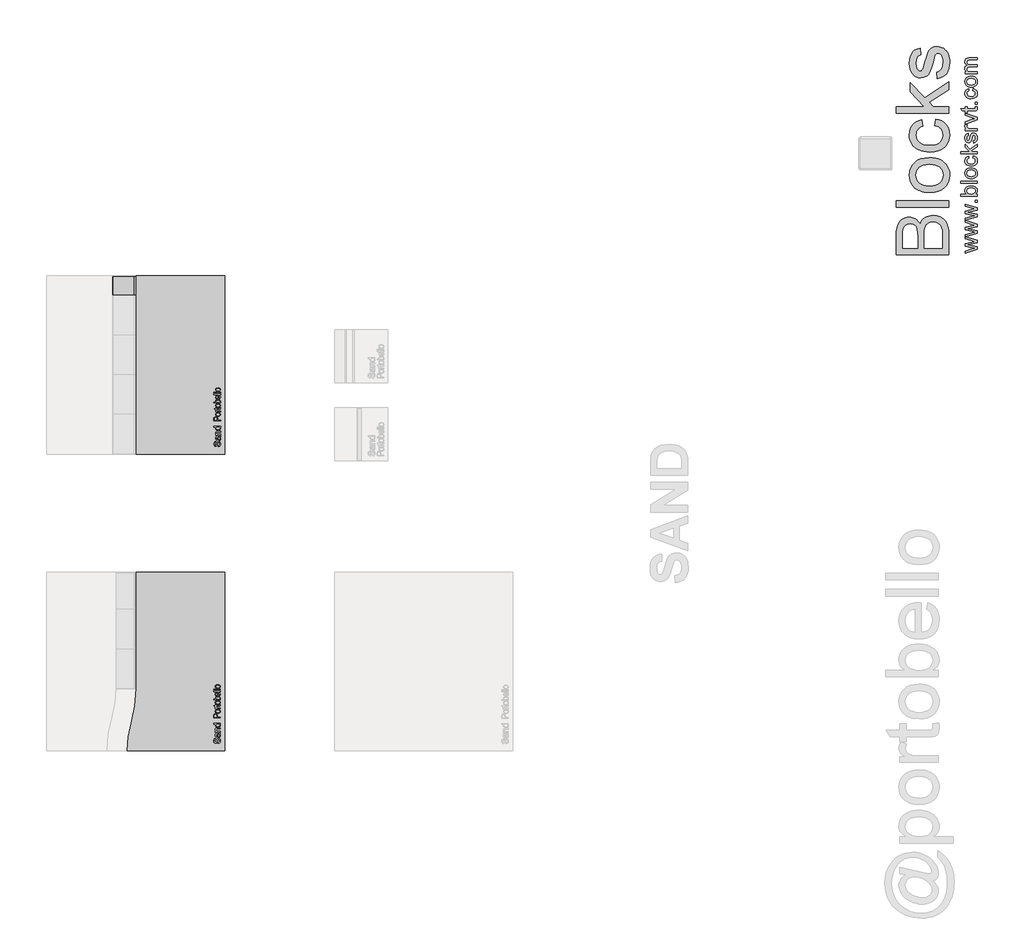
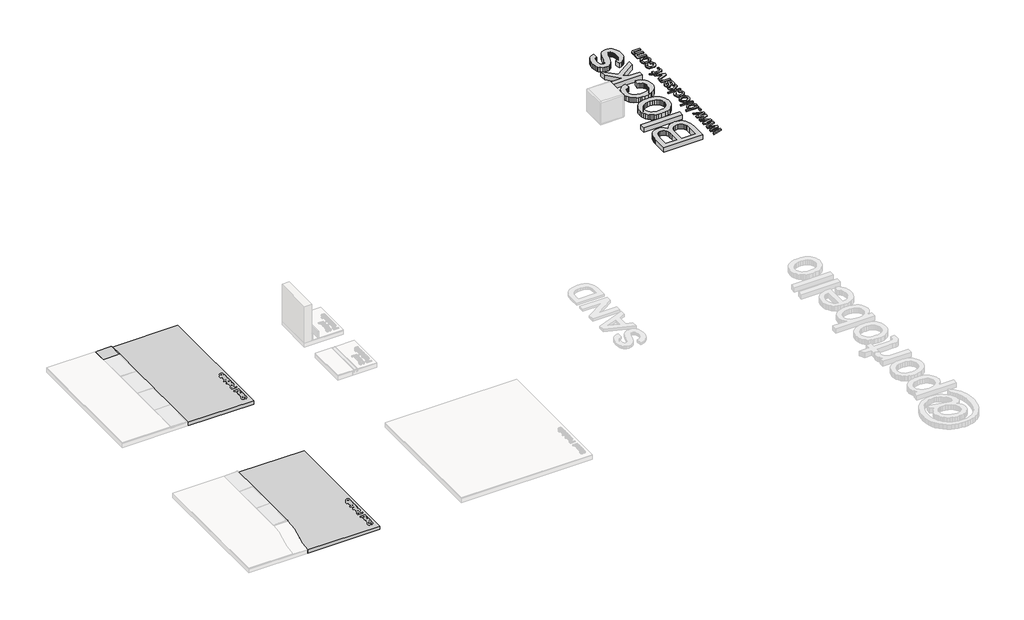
# One storey, part 6 of 6: 5 proxies.
"""IFC4 building model written with IfcOpenShell, lengths in millimetres."""

from ifc_helpers import new_model, si_unit, origin, origin_with_axes, place, context, project, spatial, polyline, outline, extrude, transform, mapped, element, save
from components import generic_models_525e2e9f, generic_models_5d5f10d4, sand_00d39136

model = new_model("IFC4")

# Units and contexts
model_context = context("Model", 3, world=origin())
ifc_project = project(units=[si_unit("LENGTHUNIT", "METRE", prefix="MILLI")], contexts=[model_context])

# Site, building, storey
site = spatial("IfcSite", under=ifc_project)
building = spatial("IfcBuilding", under=site)
storey = spatial("IfcBuildingStorey", under=building, Name="PORTOBELLO - SHOWROOM", Elevation=0.0)

# Proxies
placement = place(None, origin())
generic_models_shape = generic_models_525e2e9f(model_context)
element("IfcBuildingElementProxy", 1, Name="Água1 : Água", ObjectType="Água1 : Água", at=placement, inside=storey, context=model_context, shape_type="MappedRepresentation", body=[
    mapped(generic_models_shape, transform((-2016.0, 1090.0, 0.0), x_axis=(1.0, 0.0, 0.0), y_axis=(0.0, 1.0, 0.0), z_axis=(0.0, 0.0, 1.0))),
])
generic_models_2_shape = generic_models_5d5f10d4(model_context)
element("IfcBuildingElementProxy", 2, Name="Água2 : Água", ObjectType="Água2 : Água", at=placement, inside=storey, context=model_context, shape_type="MappedRepresentation", body=[
    mapped(generic_models_2_shape, transform((-2016.0, 1090.0, 0.0), x_axis=(1.0, 0.0, 0.0), y_axis=(0.0, 1.0, 0.0), z_axis=(0.0, 0.0, 1.0))),
])
element("IfcBuildingElementProxy", 3, Name="25mm Arial", ObjectType="25mm Arial", at=placement, inside=storey, context=model_context, shape_type="SweptSolid", body=[
    extrude(outline(polyline([(1688.9669276, 1102.3766874), (1510.9469451, 1047.9882686), (1688.9669276, 993.4223032), (1688.9669276, 955.5304577), (1580.809621, 931.3728733), (1547.0871048, 924.3831154), (1688.9669276, 893.2970868), (1688.9669276, 855.1599867), (1510.9469451, 800.7715678), (1688.9669276, 746.2056024), (1688.9669276, 708.3137569), (1580.809621, 684.1561726), (1547.0871048, 677.1664147), (1688.9669276, 646.0803861), (1688.9669276, 607.9432859), (1504.5354207, 551.596027), (1504.5354207, 584.1535836), (1612.1409042, 616.0366898), (1650.5845727, 625.540308), (1613.5511186, 633.3271436), (1504.5354207, 658.6496876), (1504.5354207, 695.9283964), (1613.2445502, 721.2509404), (1646.7831255, 728.1793847), (1611.4051403, 738.1121985), (1504.5354207, 769.9953048), (1504.5354207, 798.8127277), (1504.5354207, 802.7368024), (1504.5354207, 831.3702843), (1612.1409042, 863.2533906), (1650.5845727, 872.7570088), (1613.5511186, 880.5438443), (1504.5354207, 905.8663883), (1504.5354207, 943.1450972), (1613.2445502, 968.4676412), (1646.7831255, 975.3960854), (1611.4051403, 985.3288993), (1504.5354207, 1017.2120056), (1504.5354207, 1046.0294285), (1504.5354207, 1049.9535031), (1504.5354207, 1078.5869851), (1612.1409042, 1110.4700913), (1650.5845727, 1119.9737095), (1613.5511186, 1127.7605451), (1504.5354207, 1153.0830891), (1504.5354207, 1190.3617979), (1613.2445502, 1215.6843419), (1646.7831255, 1222.6127862), (1611.4051403, 1232.5456001), (1504.5354207, 1264.4287063), (1504.5354207, 1297.1702039), (1688.9669276, 1240.639004), (1688.9669276, 1202.7471585), (1580.809621, 1178.5895741), (1547.0871048, 1171.5998162), (1688.9669276, 1140.5137876), (1688.9669276, 1102.3766874)])), origin_with_axes(), (0.0, 0.0, 1.0), 20.0),
    extrude(outline(polyline([(1688.9669276, 1326.6007635), (1657.5743307, 1326.6007635), (1657.5743307, 1357.9933604), (1688.9669276, 1357.9933604), (1688.9669276, 1326.6007635)])), origin_with_axes(), (0.0, 0.0, 1.0), 20.0),
    extrude(outline(polyline([(1688.9669276, 1448.2470766), (1688.9669276, 1416.8544796), (1437.8261522, 1416.8544796), (1437.8261522, 1448.2470766), (1530.9616106, 1448.2470766), (1517.6833699, 1458.5707651), (1508.1989122, 1470.2280258), (1502.5082376, 1483.2188587), (1500.611346, 1497.5432639), (1502.3204645, 1513.7147433), (1507.4478198, 1528.9971745), (1515.6715152, 1542.5168378), (1526.669654, 1553.4000135), (1556.5600661, 1568.3912048), (1593.9920592, 1573.8174643), (1635.8999498, 1568.1995996), (1652.8301858, 1561.1772688), (1667.0779489, 1551.3460057), (1678.3711597, 1539.5450411), (1686.4377389, 1526.6136057), (1691.2776864, 1512.5516997), (1692.8910022, 1497.3593229), (1690.8101697, 1482.5635689), (1684.567672, 1469.4462765), (1674.1635094, 1458.0074458), (1659.5976816, 1448.2470766), (1688.9669276, 1448.2470766)]), holes=[polyline([(1595.4635871, 1448.2470766), (1621.6445225, 1450.3930549), (1639.3641719, 1456.8309898), (1655.9648469, 1473.2783807), (1661.4984053, 1494.6615216), (1657.4210465, 1512.7797099), (1645.1889701, 1528.2614105), (1624.8788183, 1538.8840031), (1596.5672331, 1542.4248673), (1567.8417807, 1539.0296231), (1547.7615551, 1528.8438903), (1535.943346, 1513.8450348), (1532.003943, 1496.0104223), (1536.0813017, 1477.892234), (1548.3133781, 1462.4105334), (1568.2556479, 1451.7879408), (1595.4635871, 1448.2470766)])]), origin_with_axes(), (0.0, 0.0, 1.0), 20.0),
    extrude(outline(polyline([(1688.9669276, 1609.1341358), (1437.8261522, 1609.1341358), (1437.8261522, 1640.5267327), (1688.9669276, 1640.5267327), (1688.9669276, 1609.1341358)])), origin_with_axes(), (0.0, 0.0, 1.0), 20.0),
    extrude(outline(polyline([(1596.7511741, 1679.7674789), (1572.8656692, 1681.465101), (1552.2834379, 1686.5579674), (1535.0044805, 1695.046078), (1521.0287968, 1706.9294328), (1505.7157087, 1732.0986927), (1500.611346, 1762.2343595), (1502.1652643, 1779.553554), (1506.8270189, 1795.2134475), (1514.59661, 1809.2140399), (1525.4740376, 1821.5553312), (1539.0914195, 1831.6280168), (1555.080874, 1838.8227923), (1573.4424008, 1843.1396576), (1594.1760002, 1844.5786127), (1625.8904938, 1842.0340956), (1650.0327498, 1834.4005442), (1668.112617, 1821.9002205), (1681.6399445, 1804.7553867), (1690.0782378, 1784.3915855), (1692.8910022, 1762.2343595), (1691.3428321, 1744.662246), (1686.6983219, 1728.8567326), (1678.9574716, 1714.8178192), (1668.1202812, 1702.5455057), (1654.3706916, 1692.580119), (1637.8926439, 1685.4619856), (1618.6861381, 1681.1911055), (1596.7511741, 1679.7674789)]), holes=[polyline([(1596.6898605, 1711.1600758), (1625.1010804, 1714.7929105), (1645.3422543, 1725.6914146), (1657.4593675, 1742.0928202), (1661.4984053, 1762.2343595), (1657.4363749, 1782.2839282), (1645.2502838, 1798.654677), (1624.7408626, 1809.5531811), (1595.7088418, 1813.1860158), (1568.1253564, 1809.5301885), (1548.1600939, 1798.5627065), (1536.0429807, 1782.1689651), (1532.003943, 1762.2343595), (1536.0276523, 1742.0928202), (1548.0987803, 1725.6914146), (1568.2939689, 1714.7929105), (1596.6898605, 1711.1600758)])]), origin_with_axes(), (0.0, 0.0, 1.0), 20.0),
    extrude(outline(polyline([(1622.2576591, 1997.6175227), (1626.1817337, 2029.0101196), (1654.1024443, 2020.2575938), (1675.2020096, 2003.810203), (1688.468754, 1981.2161171), (1692.8910022, 1954.0235063), (1691.3485803, 1936.4169039), (1686.7213146, 1920.630551), (1679.009205, 1906.6644475), (1668.2122517, 1894.5185935), (1654.533556, 1884.6873304), (1638.1762196, 1877.6649996), (1597.4256244, 1872.047135), (1569.4895854, 1874.4460322), (1545.2783516, 1881.6427237), (1525.7269564, 1893.7521727), (1511.7704332, 1910.8893423), (1503.4011178, 1931.3910994), (1500.611346, 1953.5943106), (1504.4434502, 1980.1201353), (1515.9397625, 2001.3269995), (1534.4871464, 2016.5404528), (1559.4724653, 2025.086045), (1563.3965399, 1993.6934481), (1549.7005998, 1987.9989414), (1539.882749, 1979.1314524), (1533.9736445, 1967.5814906), (1532.003943, 1953.8395653), (1535.8820323, 1933.5524061), (1547.5163004, 1917.4499046), (1567.5352123, 1906.9422751), (1596.5672331, 1903.4397319), (1625.9901285, 1906.865633), (1646.0780183, 1917.1433363), (1657.6433085, 1932.9545978), (1661.4984053, 1952.9811739), (1659.0918439, 1969.2369596), (1651.8721597, 1982.5650177), (1639.6554118, 1992.2602411), (1622.2576591, 1997.6175227)])), origin_with_axes(), (0.0, 0.0, 1.0), 20.0),
    extrude(outline(polyline([(1688.9669276, 2056.4786419), (1437.8261522, 2056.4786419), (1437.8261522, 2087.8712388), (1572.7775308, 2087.8712388), (1504.5354207, 2158.2593273), (1504.5354207, 2201.6694027), (1573.6359221, 2130.3616093), (1688.9669276, 2205.5934773), (1688.9669276, 2168.9279051), (1595.4635871, 2107.8594939), (1614.9000192, 2087.8712388), (1688.9669276, 2087.8712388), (1688.9669276, 2056.4786419)])), origin_with_axes(), (0.0, 0.0, 1.0), 20.0),
    extrude(outline(polyline([(1634.029883, 2221.2897758), (1630.1058083, 2252.6823727), (1643.5335012, 2257.6334512), (1653.4050014, 2267.2137115), (1659.4750543, 2281.4844672), (1661.4984053, 2300.5070321), (1659.6436669, 2319.2996706), (1654.0794517, 2332.5127656), (1646.0167046, 2340.330258), (1636.6663706, 2342.9360888), (1628.6649372, 2340.3149296), (1622.5642274, 2332.451452), (1613.6124322, 2300.1391501), (1598.2533589, 2252.8663137), (1590.5355012, 2240.9024846), (1580.3191117, 2232.2342651), (1568.2556479, 2226.9689541), (1554.9965677, 2225.2138504), (1531.6054041, 2230.8547076), (1513.7324705, 2246.2444378), (1504.4434502, 2266.202036), (1500.611346, 2293.2107058), (1502.1518519, 2313.643485), (1506.7733695, 2331.4091197), (1514.0237105, 2345.6952038), (1523.4506866, 2355.6893313), (1535.7517408, 2362.3112072), (1551.624316, 2366.4805365), (1555.5483907, 2335.0879396), (1545.6692262, 2331.125544), (1538.2272801, 2323.2850589), (1533.5597772, 2311.4898425), (1532.003943, 2295.6632525), (1533.4907994, 2277.6370347), (1537.9513686, 2265.6195562), (1544.3893035, 2258.8597245), (1551.808257, 2256.6064473), (1560.9439933, 2260.3465809), (1567.8724375, 2272.0574911), (1574.5556271, 2299.0968177), (1589.3322205, 2345.1740376), (1596.3986205, 2357.3448003), (1606.0708513, 2366.572507), (1618.3795697, 2372.3896411), (1633.3554326, 2374.3286858), (1648.8371333, 2372.0524159), (1663.3991289, 2365.2236064), (1675.8994525, 2354.1028402), (1685.1961371, 2338.9507006), (1690.9672859, 2320.6485713), (1692.8910022, 2300.0778364), (1689.1815254, 2268.4246564), (1678.0530951, 2245.3247328), (1659.6283385, 2229.9043458), (1634.029883, 2221.2897758)])), origin_with_axes(), (0.0, 0.0, 1.0), 20.0),
    extrude(outline(polyline([(1688.9669276, 2572.7397085), (1504.5354207, 2507.7472227), (1504.5354207, 2540.9179159), (1615.0226465, 2580.2812894), (1652.1787281, 2592.1148269), (1617.1073112, 2603.7031098), (1504.5354207, 2643.2504242), (1504.5354207, 2676.4824311), (1688.9669276, 2612.4096503), (1688.9669276, 2572.7397085)])), origin_with_axes(), (0.0, 0.0, 1.0), 20.0),
    extrude(outline(polyline([(1688.9669276, 2409.6453573), (1504.5354207, 2409.6453573), (1504.5354207, 2437.1138796), (1531.820002, 2437.1138796), (1516.0010762, 2447.2612913), (1506.681399, 2456.6116253), (1500.611346, 2476.2319984), (1503.0332358, 2491.8669832), (1510.2989052, 2507.7472227), (1538.4418779, 2497.2625858), (1532.003943, 2475.1896661), (1533.552113, 2465.8163394), (1538.1966232, 2457.4393598), (1555.3644497, 2446.1269885), (1592.0300218, 2441.0379542), (1688.9669276, 2441.0379542), (1688.9669276, 2409.6453573)])), origin_with_axes(), (0.0, 0.0, 1.0), 20.0),
    extrude(outline(polyline([(1662.7859923, 2770.6602219), (1689.8866326, 2774.5842965), (1692.8910022, 2751.1011625), (1691.5880868, 2736.0333291), (1687.6793406, 2724.7975998), (1674.0063931, 2711.6764753), (1638.3831532, 2707.8750281), (1535.9280176, 2707.8750281), (1535.9280176, 2684.3305804), (1504.5354207, 2684.3305804), (1504.5354207, 2707.8750281), (1459.7151309, 2707.8750281), (1441.2597175, 2739.267625), (1504.5354207, 2739.267625), (1504.5354207, 2770.6602219), (1535.9280176, 2770.6602219), (1535.9280176, 2739.267625), (1637.4634482, 2739.267625), (1653.650256, 2740.923094), (1659.3830838, 2746.2880397), (1661.4984053, 2756.9872744), (1662.7859923, 2770.6602219)])), origin_with_axes(), (0.0, 0.0, 1.0), 20.0),
    extrude(outline(polyline([(1688.9669276, 2809.900968), (1657.5743307, 2809.900968), (1657.5743307, 2841.293565), (1688.9669276, 2841.293565), (1688.9669276, 2809.900968)])), origin_with_axes(), (0.0, 0.0, 1.0), 20.0),
    extrude(outline(polyline([(1622.2576591, 3017.8769227), (1626.1817337, 3049.2695196), (1654.1024443, 3040.5169938), (1675.2020096, 3024.0696029), (1688.468754, 3001.475517), (1692.8910022, 2974.2829062), (1691.3485803, 2956.6763039), (1686.7213146, 2940.889951), (1679.009205, 2926.9238475), (1668.2122517, 2914.7779935), (1654.533556, 2904.9467304), (1638.1762196, 2897.9243996), (1597.4256244, 2892.306535), (1569.4895854, 2894.7054321), (1545.2783516, 2901.9021237), (1525.7269564, 2914.0115727), (1511.7704332, 2931.1487423), (1503.4011178, 2951.6504993), (1500.611346, 2973.8537106), (1504.4434502, 3000.3795353), (1515.9397625, 3021.5863994), (1534.4871464, 3036.7998528), (1559.4724653, 3045.345445), (1563.3965399, 3013.952848), (1549.7005998, 3008.2583413), (1539.882749, 2999.3908524), (1533.9736445, 2987.8408906), (1532.003943, 2974.0989652), (1535.8820323, 2953.811806), (1547.5163004, 2937.7093045), (1567.5352123, 2927.2016751), (1596.5672331, 2923.6991319), (1625.9901285, 2927.125033), (1646.0780183, 2937.4027362), (1657.6433085, 2953.2139978), (1661.4984053, 2973.2405739), (1659.0918439, 2989.4963596), (1651.8721597, 3002.8244177), (1639.6554118, 3012.5196411), (1622.2576591, 3017.8769227)])), origin_with_axes(), (0.0, 0.0, 1.0), 20.0),
    extrude(outline(polyline([(1596.7511741, 3068.8898927), (1572.8656692, 3070.5875148), (1552.2834379, 3075.6803811), (1535.0044805, 3084.1684918), (1521.0287968, 3096.0518466), (1505.7157087, 3121.2211065), (1500.611346, 3151.3567732), (1502.1652643, 3168.6759678), (1506.8270189, 3184.3358613), (1514.59661, 3198.3364537), (1525.4740376, 3210.677745), (1539.0914195, 3220.7504306), (1555.080874, 3227.9452061), (1573.4424008, 3232.2620714), (1594.1760002, 3233.7010265), (1625.8904938, 3231.1565094), (1650.0327498, 3223.522958), (1668.112617, 3211.0226343), (1681.6399445, 3193.8778005), (1690.0782378, 3173.5139992), (1692.8910022, 3151.3567732), (1691.3428321, 3133.7846598), (1686.6983219, 3117.9791464), (1678.9574716, 3103.940233), (1668.1202812, 3091.6679195), (1654.3706916, 3081.7025328), (1637.8926439, 3074.5843994), (1618.6861381, 3070.3135193), (1596.7511741, 3068.8898927)]), holes=[polyline([(1596.6898605, 3100.2824896), (1625.1010804, 3103.9153243), (1645.3422543, 3114.8138284), (1657.4593675, 3131.215234), (1661.4984053, 3151.3567732), (1657.4363749, 3171.406342), (1645.2502838, 3187.7770908), (1624.7408626, 3198.6755949), (1595.7088418, 3202.3084296), (1568.1253564, 3198.6526022), (1548.1600939, 3187.6851203), (1536.0429807, 3171.2913789), (1532.003943, 3151.3567732), (1536.0276523, 3131.215234), (1548.0987803, 3114.8138284), (1568.2939689, 3103.9153243), (1596.6898605, 3100.2824896)])]), origin_with_axes(), (0.0, 0.0, 1.0), 20.0),
    extrude(outline(polyline([(1688.9669276, 3269.017698), (1504.5354207, 3269.017698), (1504.5354207, 3300.410295), (1534.8856853, 3300.410295), (1520.9444905, 3309.8525995), (1510.0229938, 3321.9927053), (1502.964258, 3336.4167452), (1500.611346, 3352.7108519), (1503.0102432, 3370.1699183), (1510.2069348, 3384.1647625), (1521.7262397, 3394.6187425), (1537.0929772, 3401.4552163), (1521.1322636, 3412.8978792), (1509.7317538, 3425.9500258), (1502.891448, 3440.6116562), (1500.611346, 3456.8827702), (1504.4051291, 3480.4808674), (1515.7864783, 3497.9322695), (1535.0619621, 3508.7158105), (1562.5381486, 3512.3103242), (1688.9669276, 3512.3103242), (1688.9669276, 3480.9177273), (1576.0271551, 3480.9177273), (1549.8155629, 3478.0053281), (1536.9090362, 3467.4593776), (1532.003943, 3449.5251303), (1535.1462683, 3432.5182523), (1544.5732445, 3418.6536996), (1560.9286648, 3409.4336571), (1584.8563229, 3406.3603096), (1688.9669276, 3406.3603096), (1688.9669276, 3374.9677126), (1572.5322761, 3374.9677126), (1554.7819698, 3373.1512953), (1542.1206978, 3367.7020432), (1534.5331317, 3358.1141187), (1532.003943, 3343.881684), (1533.6900688, 3331.7875635), (1538.7484462, 3320.6438047), (1547.0564479, 3311.4467548), (1558.4914466, 3305.1927609), (1595.9540965, 3300.410295), (1688.9669276, 3300.410295), (1688.9669276, 3269.017698)])), origin_with_axes(), (0.0, 0.0, 1.0), 20.0),
])
element("IfcBuildingElementProxy", 4, Name="80mm Arial", ObjectType="80mm Arial", at=placement, inside=storey, context=model_context, shape_type="SweptSolid", body=[
    extrude(outline(polyline([(1259.5235049, 524.3988032), (460.1348066, 524.3988032), (460.1348066, 829.438973), (461.6046298, 873.6861425), (466.0140997, 913.3347779), (473.363216, 948.3848789), (483.651979, 978.8364458), (496.9901678, 1005.4640326), (513.4875618, 1029.0421935), (533.144161, 1049.5709286), (555.9599655, 1067.0502377), (580.6481174, 1081.0105094), (605.9217591, 1090.982132), (631.7808906, 1096.9651056), (658.2255118, 1098.9594301), (682.6514132, 1097.2822459), (706.35765, 1092.2506932), (729.3442223, 1083.864772), (751.61113, 1072.1244824), (772.4631042, 1056.9932312), (791.2048757, 1038.4344252), (807.8364445, 1016.4480646), (822.3578105, 991.0341493), (835.21419, 1021.1929713), (851.9250439, 1047.6558891), (872.490372, 1070.4229027), (896.9101745, 1089.4940122), (924.4403913, 1104.5642749), (954.3369627, 1115.3287483), (986.5998885, 1121.7874323), (1021.2291688, 1123.940327), (1076.9726739, 1118.0610339), (1128.6665415, 1100.4231546), (1172.627065, 1074.1005103), (1205.170538, 1042.1669225), (1228.7365012, 1003.061085), (1245.7644953, 955.2216918), (1256.0837525, 897.0874368), (1259.5235049, 827.0970139), (1259.5235049, 524.3988032)]), holes=[polyline([(784.8864653, 624.3223905), (784.8864653, 806.8000353), (782.7396694, 870.6184201), (776.299282, 913.3591733), (761.4912699, 950.6597507), (739.3158449, 977.470303), (710.1145426, 993.6444579), (674.2288989, 999.0358428), (639.3922576, 994.010389), (609.0443712, 978.9340274), (585.356431, 954.4898296), (570.4996281, 921.3608668), (562.6687024, 870.5208385), (560.0583939, 792.9434441), (560.0583939, 624.3223905), (784.8864653, 624.3223905)]), polyline([(1159.5999176, 624.3223905), (1159.5999176, 829.2438097), (1155.6966525, 903.4058472), (1147.036283, 937.8277665), (1133.9359494, 966.1508341), (1115.1758814, 989.1800984), (1089.5363086, 1007.7206078), (1058.1638151, 1019.9427067), (1022.2049851, 1024.0167397), (980.4400482, 1019.2352399), (944.530009, 1004.8907405), (929.2645831, 993.84572), (916.4508955, 979.8366575), (906.0889464, 962.863553), (898.1787356, 942.9264066), (888.1522233, 890.6470493), (884.8100526, 819.4856469), (884.8100526, 624.3223905), (1159.5999176, 624.3223905)])]), origin_with_axes(), (0.0, 0.0, 1.0), 100.0),
    extrude(outline(polyline([(1259.5235049, 1248.8448111), (460.1348066, 1248.8448111), (460.1348066, 1348.7683984), (1259.5235049, 1348.7683984), (1259.5235049, 1248.8448111)])), origin_with_axes(), (0.0, 0.0, 1.0), 100.0),
    extrude(outline(polyline([(965.9979672, 1473.6728825), (889.9696812, 1479.0764651), (855.8984458, 1485.8309435), (824.4558155, 1495.2872131), (795.6417904, 1507.4452741), (769.4563703, 1522.3051264), (745.8995554, 1539.8667701), (724.9713455, 1560.1302051), (696.5384986, 1598.2114355), (676.2293223, 1640.2447218), (664.0438164, 1686.2300641), (659.9819812, 1736.1674624), (664.9281499, 1791.2949835), (679.7666563, 1841.1408989), (704.4975002, 1885.7052088), (739.1206816, 1924.987913), (782.4652211, 1957.0495767), (833.3601391, 1979.9507651), (891.8054355, 1993.6914781), (957.8011105, 1998.2717158), (1011.2880404, 1996.246897), (1058.7493049, 1990.1724406), (1100.1849037, 1980.0483467), (1135.5948371, 1965.8746152), (1166.1805787, 1947.8281128), (1193.1436023, 1926.0857063), (1216.483908, 1900.6473956), (1236.2014958, 1871.5131807), (1251.8694459, 1839.8174481), (1263.0608389, 1806.6945842), (1269.7756747, 1772.1445889), (1272.0139533, 1736.1674624), (1267.0860811, 1680.2348929), (1252.3024644, 1629.9254647), (1227.6631033, 1585.2391778), (1193.1679977, 1546.1760322), (1149.4026375, 1514.4559042), (1096.9525123, 1491.7986699), (1035.8176222, 1478.2043293), (965.9979672, 1473.6728825)]), holes=[polyline([(965.802804, 1573.5964698), (1014.2703789, 1576.4873255), (1056.2365779, 1585.1598927), (1091.7014009, 1599.6141714), (1120.664848, 1619.8501616), (1143.1635121, 1644.4651273), (1159.2339865, 1672.0563326), (1168.8762711, 1702.6237777), (1172.090366, 1736.1674624), (1168.8579746, 1769.5403792), (1159.1608003, 1799.9858472), (1142.9988431, 1827.5038664), (1120.3721031, 1852.0944367), (1091.12201, 1872.3304269), (1055.0899938, 1886.7847055), (1012.2760544, 1895.4572727), (962.6801919, 1898.3481285), (915.7495276, 1895.4389762), (874.8811219, 1886.7115193), (840.0749749, 1872.1657579), (811.3310865, 1851.8016918), (788.8324224, 1827.1196387), (772.761948, 1799.6199161), (763.1196633, 1769.302524), (759.9055684, 1736.1674624), (763.1074656, 1702.6237777), (772.7131571, 1672.0563326), (788.722643, 1644.4651273), (811.1359233, 1619.8501616), (840.0139864, 1599.6141714), (875.4178208, 1585.1598927), (917.3474267, 1576.4873255), (965.802804, 1573.5964698)])]), origin_with_axes(), (0.0, 0.0, 1.0), 100.0),
    extrude(outline(polyline([(1047.1858819, 2485.3992038), (1059.6763303, 2585.3227911), (1106.8265533, 2574.4546373), (1148.5487982, 2557.4632363), (1184.8430651, 2534.3485881), (1215.7093538, 2505.1106927), (1240.3426161, 2470.9815183), (1257.9378035, 2433.1930327), (1268.4949159, 2391.7452361), (1272.0139533, 2346.6381285), (1267.1043777, 2290.5957796), (1252.3756506, 2240.34734), (1227.8277723, 2195.8928095), (1193.4607426, 2157.2321881), (1149.9210399, 2125.9389797), (1097.8551424, 2103.586688), (1037.2630501, 2090.175313), (968.1447631, 2085.7048547), (922.2021127, 2087.6137953), (879.2235043, 2093.3406171), (839.2089379, 2102.8853201), (802.1584135, 2116.2479043), (768.8159909, 2133.5198525), (739.9257301, 2154.7926474), (715.4876311, 2180.0662891), (695.5016938, 2209.3407776), (679.9618195, 2241.292662), (668.8619093, 2274.5984915), (662.2019632, 2309.258266), (659.9819812, 2345.2719857), (663.031407, 2389.6045392), (672.1796847, 2429.7044895), (687.4268141, 2465.5718367), (708.7727953, 2497.2065808), (735.7297201, 2524.0720229), (767.8096803, 2545.6314638), (805.0126761, 2561.8849038), (847.3387073, 2572.8323427), (859.8291557, 2472.9087554), (836.48885, 2465.108324), (816.2345633, 2454.782968), (799.0662956, 2441.9326873), (784.9840469, 2426.557482), (774.0122126, 2409.0476786), (766.1751881, 2389.7936036), (761.4729733, 2368.795257), (759.9055684, 2346.0526387), (762.9915874, 2312.100331), (772.2496444, 2281.4779963), (787.6797394, 2254.1856346), (809.2818723, 2230.223246), (837.5561491, 2210.7130192), (873.0026755, 2196.777143), (915.6214517, 2188.4156172), (965.4124775, 2185.6284419), (1015.953662, 2188.3546287), (1059.0664451, 2196.5331889), (1094.7508268, 2210.1641226), (1123.006807, 2229.2474298), (1144.4808641, 2252.7341079), (1159.8194763, 2279.5751545), (1169.0226436, 2309.7705696), (1172.090366, 2343.3203531), (1170.1753266, 2370.356563), (1164.4302082, 2395.0630115), (1154.8550109, 2417.4396986), (1141.4497348, 2437.4866244), (1124.0680072, 2454.6426944), (1102.5634559, 2468.3468143), (1076.9360808, 2478.5989841), (1047.1858819, 2485.3992038)])), origin_with_axes(), (0.0, 0.0, 1.0), 100.0),
    extrude(outline(polyline([(1259.5235049, 2672.75593), (460.1348066, 2672.75593), (460.1348066, 2772.6795173), (889.689134, 2772.6795173), (672.4724296, 2996.7269357), (672.4724296, 3134.9025212), (892.4214196, 2907.927654), (1259.5235049, 3147.3929696), (1259.5235049, 3030.6853423), (961.8995389, 2836.3027389), (1023.7662911, 2772.6795173), (1259.5235049, 2772.6795173), (1259.5235049, 2672.75593)])), origin_with_axes(), (0.0, 0.0, 1.0), 100.0),
    extrude(outline(polyline([(1084.6572271, 3197.3547633), (1072.1667787, 3297.2783506), (1094.9520889, 3303.3162138), (1114.9075319, 3313.0377835), (1132.0331076, 3326.4430597), (1146.3288162, 3343.5320424), (1157.5994942, 3364.3535223), (1165.6499786, 3388.9562903), (1170.4802692, 3417.3403464), (1172.090366, 3449.5056906), (1170.6144439, 3481.6344417), (1166.1866775, 3509.3232287), (1158.8070669, 3532.5720516), (1148.475612, 3551.3809105), (1136.1559314, 3565.8961776), (1122.8116438, 3576.2642256), (1108.442749, 3582.4850544), (1093.0492472, 3584.558664), (1079.5585871, 3582.4728567), (1067.5804422, 3576.2154348), (1057.1148126, 3565.7863983), (1048.1616982, 3551.1857472), (1035.4760865, 3513.7631928), (1019.6678628, 3448.3347111), (993.2964277, 3357.1446795), (970.779467, 3297.8638403), (946.2132921, 3259.7826099), (930.9478662, 3244.6757541), (913.6942145, 3232.1914046), (875.2958438, 3215.4317599), (833.0917896, 3209.8452117), (794.3762786, 3214.3339666), (758.6370073, 3227.8002313), (727.2889092, 3249.0242354), (701.746918, 3276.7862087), (685.6703448, 3304.377414), (672.1796847, 3340.3118486), (663.031407, 3381.8572268), (659.9819812, 3426.2812631), (664.885458, 3491.3194183), (679.5958884, 3547.8679718), (702.6739435, 3593.3410106), (716.8110819, 3610.9544945), (732.6802942, 3625.1526214), (771.8349225, 3646.2302531), (822.3578105, 3659.5013545), (834.8482589, 3559.5777672), (818.1557016, 3554.814564), (803.4025792, 3546.9653418), (790.5888917, 3536.0301006), (779.714639, 3522.0088404), (771.0481706, 3504.8405726), (764.8578361, 3484.4643089), (759.9055684, 3434.0877933), (764.6382774, 3376.7097959), (770.5541636, 3355.1930469), (778.8364043, 3338.4577977), (799.3285462, 3316.9410487), (810.7455967, 3311.5618614), (822.9433003, 3309.768799), (838.3124067, 3312.7450386), (852.0226255, 3321.6737576), (864.2691198, 3336.9452824), (874.0760735, 3358.9499396), (895.3488684, 3445.0169357), (921.451954, 3533.3039138), (942.3832132, 3591.6821229), (964.8757785, 3630.4220293), (995.6627822, 3659.7940994), (1014.1910939, 3670.5951659), (1034.8418059, 3678.3102134), (1057.6149184, 3682.9392418), (1082.5104313, 3684.4822513), (1107.5157236, 3682.6708924), (1131.7891536, 3677.2368154), (1155.3307214, 3668.1800206), (1178.140427, 3655.5005078), (1199.3095414, 3639.405638), (1217.9293359, 3620.1027721), (1233.9998103, 3597.5919103), (1247.5209646, 3571.8730524), (1258.2366472, 3543.6475664), (1265.8907062, 3513.6168203), (1270.4831415, 3481.7808141), (1272.0139533, 3448.1395478), (1269.0621091, 3394.3598729), (1260.2065763, 3347.3865167), (1245.447355, 3307.219479), (1224.7844453, 3273.8587598), (1198.3154286, 3246.6090901), (1166.1378867, 3224.7752008), (1128.2518196, 3208.3570919), (1084.6572271, 3197.3547633)])), origin_with_axes(), (0.0, 0.0, 1.0), 100.0),
])
sand_shape = sand_00d39136(model_context)
element("IfcBuildingElementProxy", 5, Name="BORDA MONOLITH STEP SAND 35X60 EXT BOLD : SAND", ObjectType="BORDA MONOLITH STEP SAND 35X60 EXT BOLD : SAND", at=placement, inside=storey, context=model_context, shape_type="MappedRepresentation", body=[
    mapped(sand_shape, transform((-11311.979538, 216.391761, 19.9997432), x_axis=(-1.0, 0.0, 0.0), y_axis=(0.0, -1.0, 0.0), z_axis=(0.0, 0.0, 1.0))),
])

save(model, "model.ifc")
